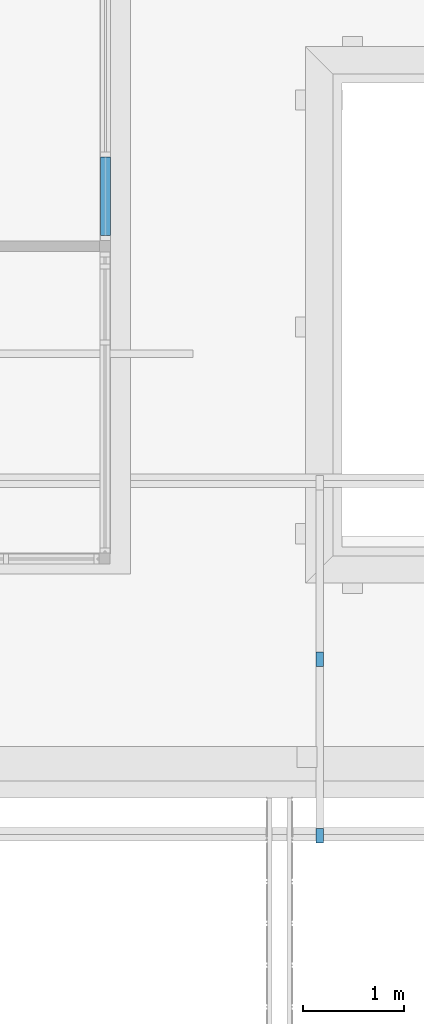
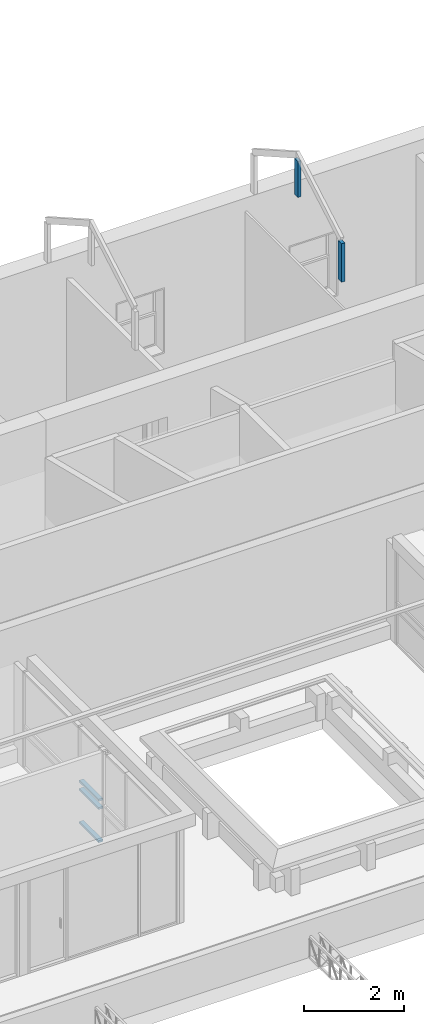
# One storey, part 63 of 153: 5 members, 2 elements without a shape of their own.
"""IFC4 building model written with IfcOpenShell, lengths in metres."""

import ifcopenshell
import ifcopenshell.guid

model = None  # the IFC model being written
_history = None  # IfcOwnerHistory: only IFC2X3 demands one
_inside = {}  # id of a spatial element -> (the spatial element, [elements in it])
_under = {}  # id of a project, library or spatial element -> (it, [spatial elements below it])
_declared = {}  # id of a project -> (the project, [libraries it declares])
_typed = {}  # id of a type object -> (the type object, [elements of that type])
_made_of = {}  # id of a material, layer set ... -> (it, [elements and type objects made of it])


def new_model(schema):
    """Start an empty IFC model of exactly this schema.

    Asked for "IFC4X3", IfcOpenShell would pick the latest addendum, in which some entities
    have other attributes; the version numbers below select the first issue.
    IFC2X3 requires an IfcOwnerHistory on every rooted entity: one is made here for all.
    """
    global model, _history
    if schema == "IFC4X3":
        model = ifcopenshell.file(schema_version=(4, 3, 0, 0))
    else:
        model = ifcopenshell.file(schema=schema)
    _inside.clear()
    _under.clear()
    _declared.clear()
    _typed.clear()
    _made_of.clear()
    _history = None
    if model.schema == "IFC2X3":
        org = make("IfcOrganization", Name="unknown")
        user = make(
            "IfcPersonAndOrganization",
            ThePerson=make("IfcPerson", FamilyName="unknown"),
            TheOrganization=org,
        )
        app = make(
            "IfcApplication",
            ApplicationDeveloper=org,
            Version="unknown",
            ApplicationFullName="unknown",
            ApplicationIdentifier="unknown",
        )
        _history = make(
            "IfcOwnerHistory",
            OwningUser=user,
            OwningApplication=app,
            ChangeAction="ADDED",
            CreationDate=0,
        )
    return model


def make(cls, **values):
    """One entity of the class cls with the attributes given. An attribute that is None is left unset."""
    return model.create_entity(
        cls, **{name: value for name, value in values.items() if value is not None}
    )


def entity(cls, *values):
    """Any entity or typed value of the class cls, its attributes in the order of the schema. None: left unset."""
    e = model.create_entity(cls)
    for i, value in enumerate(values):
        if value is not None:
            e[i] = value
    return e


def rooted(cls, **values):
    """An entity with a GlobalId (a new one), such as an element, a storey or a relation."""
    return make(cls, GlobalId=ifcopenshell.guid.new(), OwnerHistory=_history, **values)


def si_unit(unit_type, name, prefix=None):
    """IfcSIUnit, for example si_unit("LENGTHUNIT", "METRE", prefix="MILLI")."""
    return make("IfcSIUnit", UnitType=unit_type, Prefix=prefix, Name=name)


def converted_unit(unit_type, name, factor, base, dimensions=None, offset=None):
    """IfcConversionBasedUnit, such as the inch: factor (a typed value) times the base unit."""
    return make(
        "IfcConversionBasedUnit"
        if offset is None
        else "IfcConversionBasedUnitWithOffset",
        ConversionOffset=offset,
        Dimensions=None
        if dimensions is None
        else entity("IfcDimensionalExponents", *dimensions),
        UnitType=unit_type,
        Name=name,
        ConversionFactor=make(
            "IfcMeasureWithUnit", ValueComponent=factor, UnitComponent=base
        ),
    )


def derived_unit(unit_type, elements):
    """IfcDerivedUnit: a product of units, each with its exponent."""
    return make(
        "IfcDerivedUnit",
        Elements=[
            make("IfcDerivedUnitElement", Unit=unit, Exponent=power)
            for unit, power in elements
        ],
        UnitType=unit_type,
    )


def assignment(units):
    """IfcUnitAssignment: the units of a project."""
    return None if units is None else make("IfcUnitAssignment", Units=units)


def point(xyz):
    """IfcCartesianPoint."""
    return None if xyz is None else make("IfcCartesianPoint", Coordinates=xyz)


def direction(xyz):
    """IfcDirection."""
    return None if xyz is None else make("IfcDirection", DirectionRatios=xyz)


def frame(location, z_axis=None, x_axis=None):
    """IfcAxis2Placement3D, a coordinate frame: its origin and axes. An axis left out is left unset."""
    return make(
        "IfcAxis2Placement3D",
        Location=point(location),
        Axis=direction(z_axis),
        RefDirection=direction(x_axis),
    )


def origin():
    """The frame at (0, 0, 0) with its axes left unset."""
    return frame((0.0, 0.0, 0.0))


def place(relative_to, where):
    """IfcLocalPlacement: puts the frame where relative to a parent placement (None: the world)."""
    return make(
        "IfcLocalPlacement", PlacementRelTo=relative_to, RelativePlacement=where
    )


def context(
    kind, dimensions, precision=None, world=None, true_north=None, identifier=None
):
    """IfcGeometricRepresentationContext, for example the 3D "Model" context."""
    return make(
        "IfcGeometricRepresentationContext",
        ContextIdentifier=identifier,
        ContextType=kind,
        CoordinateSpaceDimension=dimensions,
        Precision=precision,
        WorldCoordinateSystem=world,
        TrueNorth=true_north,
    )


def subcontext(parent, identifier, kind, view, scale=None):
    """IfcGeometricRepresentationSubContext, for example "Body" below "Model"."""
    return make(
        "IfcGeometricRepresentationSubContext",
        ContextIdentifier=identifier,
        ContextType=kind,
        ParentContext=parent,
        TargetScale=scale,
        TargetView=view,
    )


def project(units=None, contexts=None):
    """IfcProject with its units and contexts."""
    return rooted(
        "IfcProject",
        Name="project",
        RepresentationContexts=contexts,
        UnitsInContext=assignment(units),
    )


def spatial(cls, under=None, at=None, **own):
    """A site, building, storey or space (cls), placed at a placement, below another one or the project."""
    s = rooted(cls, ObjectPlacement=at, **own)
    if under is not None:
        _under.setdefault(under.id(), (under, []))[1].append(s)
    return s


def point_list(points):
    """IfcCartesianPointList2D or 3D."""
    cls = (
        "IfcCartesianPointList2D" if len(points[0]) == 2 else "IfcCartesianPointList3D"
    )
    return make(cls, CoordList=points)


def indexed_curve(points, segments=None, self_intersect=None):
    """IfcIndexedPolyCurve: lines and arcs through numbered points (the first is 1)."""
    return make(
        "IfcIndexedPolyCurve",
        Points=point_list(points),
        Segments=segments,
        SelfIntersect=self_intersect,
    )


def outline(outer, holes=None, kind="AREA"):
    """IfcArbitraryClosedProfileDef: a profile drawn as a closed curve; with holes, ...WithVoids."""
    if holes is None:
        return make("IfcArbitraryClosedProfileDef", ProfileType=kind, OuterCurve=outer)
    return make(
        "IfcArbitraryProfileDefWithVoids",
        ProfileType=kind,
        OuterCurve=outer,
        InnerCurves=holes,
    )


def extrude(swept, where, along, depth):
    """IfcExtrudedAreaSolid: the profile swept, set in the frame where, extruded along a direction by depth."""
    return make(
        "IfcExtrudedAreaSolid",
        SweptArea=swept,
        Position=where,
        ExtrudedDirection=direction(along),
        Depth=depth,
    )


def shape(context_of_items, identifier, shape_type, items):
    """IfcShapeRepresentation: the items that make up one representation, for example the "Body"."""
    return make(
        "IfcShapeRepresentation",
        ContextOfItems=context_of_items,
        RepresentationIdentifier=identifier,
        RepresentationType=shape_type,
        Items=items,
    )


def source(mapping_origin, context_of_items, identifier, shape_type, items):
    """IfcRepresentationMap: a shape defined once, which mapped items show again and again."""
    return make(
        "IfcRepresentationMap",
        MappingOrigin=mapping_origin,
        MappedRepresentation=shape(context_of_items, identifier, shape_type, items),
    )


def transform(
    local_origin,
    x_axis=None,
    y_axis=None,
    z_axis=None,
    scale=None,
    scale2=None,
    scale3=None,
    uniform=True,
):
    """IfcCartesianTransformationOperator3D, or its non-uniform kind. x_axis, y_axis, z_axis: its Axis1, 2, 3."""
    if uniform:
        return make(
            "IfcCartesianTransformationOperator3D",
            Axis1=direction(x_axis),
            Axis2=direction(y_axis),
            LocalOrigin=point(local_origin),
            Scale=scale,
            Axis3=direction(z_axis),
        )
    return make(
        "IfcCartesianTransformationOperator3DnonUniform",
        Axis1=direction(x_axis),
        Axis2=direction(y_axis),
        LocalOrigin=point(local_origin),
        Scale=scale,
        Axis3=direction(z_axis),
        Scale2=scale2,
        Scale3=scale3,
    )


def mapped(mapping_source, mapping_target):
    """IfcMappedItem: shows the shape of a source again, moved by a transform."""
    return make(
        "IfcMappedItem", MappingSource=mapping_source, MappingTarget=mapping_target
    )


def material(Name=None, Category=None):
    """IfcMaterial."""
    return make("IfcMaterial", Name=Name, Category=Category)


def made_of(thing, what):
    """Note that an element or type object is made of a material, layer set ...; save() writes the relation."""
    if what is not None:
        _made_of.setdefault(what.id(), (what, []))[1].append(thing)
    return thing


def type_object(cls, material=None, **own):
    """A type object (cls), such as IfcWallType, which elements share."""
    return made_of(rooted(cls, **own), material)


def type_shapes(of_type, sources):
    """Give a type object the sources (RepresentationMaps) that its elements show as mapped items."""
    of_type.RepresentationMaps = sources


def element(
    cls,
    number,
    at=None,
    inside=None,
    cuts=None,
    type_object=None,
    material=None,
    context=None,
    identifier="Body",
    shape_type=None,
    held_by="IfcProductDefinitionShape",
    body=None,
    shapes=None,
    **own,
):
    """One element of the class cls, such as IfcWall. Its Tag is "e" and its number.

    at: its placement. inside: the storey or other place that contains it. cuts: it is an
    opening in that element (IfcRelVoidsElement). A single representation is given by context,
    identifier, shape_type and body (its items); several are given by shapes. held_by: the class
    of the entity that holds the representations. save() writes the other relations.
    """
    e = rooted(cls, Tag="e%d" % number, ObjectPlacement=at, **own)
    if body is not None:
        shapes = [shape(context, identifier, shape_type, body)]
    if shapes is not None:
        e.Representation = make(held_by, Representations=shapes)
    if inside is not None:
        _inside.setdefault(inside.id(), (inside, []))[1].append(e)
    if cuts is not None:
        rooted(
            "IfcRelVoidsElement", RelatingBuildingElement=cuts, RelatedOpeningElement=e
        )
    if type_object is not None:
        _typed.setdefault(type_object.id(), (type_object, []))[1].append(e)
    return made_of(e, material)


def aggregate(whole, parts):
    """IfcRelAggregates: a whole, such as a stair, and the parts it consists of."""
    return rooted("IfcRelAggregates", RelatingObject=whole, RelatedObjects=parts)


def save(model, path):
    """Write the relations noted so far, then the file.

    IfcRelAggregates (storeys below a building ...), IfcRelContainedInSpatialStructure (elements
    in a storey), IfcRelDefinesByType, IfcRelAssociatesMaterial and IfcRelDeclares: one each for
    every whole, place, type object, material and project.
    """
    for whole, parts in _under.values():
        aggregate(whole, parts)
    for where, things in _inside.values():
        rooted(
            "IfcRelContainedInSpatialStructure",
            RelatedElements=things,
            RelatingStructure=where,
        )
    for kind, things in _typed.values():
        rooted("IfcRelDefinesByType", RelatedObjects=things, RelatingType=kind)
    for what, things in _made_of.values():
        rooted("IfcRelAssociatesMaterial", RelatedObjects=things, RelatingMaterial=what)
    for by, libraries in _declared.values():
        rooted("IfcRelDeclares", RelatingContext=by, RelatedDefinitions=libraries)
    model.write(path)


model = new_model("IFC4")

# Units and contexts
model_context = context("Model", 3, precision=1e-05, world=origin(), true_north=direction((6.123031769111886e-17, 1.0)))
body_context = subcontext(model_context, "Body", "Model", "MODEL_VIEW")
ifc_project = project(units=[si_unit("LENGTHUNIT", "METRE"), si_unit("AREAUNIT", "SQUARE_METRE"), si_unit("VOLUMEUNIT", "CUBIC_METRE"), converted_unit("PLANEANGLEUNIT", "DEGREE", entity("IfcRatioMeasure", 0.017453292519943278), si_unit("PLANEANGLEUNIT", "RADIAN"), dimensions=[0, 0, 0, 0, 0, 0, 0]), si_unit("MASSUNIT", "GRAM", prefix="KILO"), derived_unit("MASSDENSITYUNIT", [(si_unit("MASSUNIT", "GRAM", prefix="KILO"), 1), (si_unit("LENGTHUNIT", "METRE"), -3)]), derived_unit("MOMENTOFINERTIAUNIT", [(si_unit("LENGTHUNIT", "METRE"), 4)]), si_unit("TIMEUNIT", "SECOND"), si_unit("FREQUENCYUNIT", "HERTZ"), si_unit("THERMODYNAMICTEMPERATUREUNIT", "DEGREE_CELSIUS"), derived_unit("THERMALTRANSMITTANCEUNIT", [(si_unit("MASSUNIT", "GRAM", prefix="KILO"), 1), (si_unit("THERMODYNAMICTEMPERATUREUNIT", "KELVIN"), -1), (si_unit("TIMEUNIT", "SECOND"), -3)]), derived_unit("VOLUMETRICFLOWRATEUNIT", [(si_unit("LENGTHUNIT", "METRE"), 3), (si_unit("TIMEUNIT", "SECOND"), -1)]), derived_unit("MASSFLOWRATEUNIT", [(si_unit("MASSUNIT", "GRAM", prefix="KILO"), 1), (si_unit("TIMEUNIT", "SECOND"), -1)]), derived_unit("ROTATIONALFREQUENCYUNIT", [(si_unit("TIMEUNIT", "SECOND"), -1)]), si_unit("ELECTRICCURRENTUNIT", "AMPERE"), si_unit("ELECTRICVOLTAGEUNIT", "VOLT"), si_unit("POWERUNIT", "WATT"), si_unit("FORCEUNIT", "NEWTON", prefix="KILO"), si_unit("ILLUMINANCEUNIT", "LUX"), si_unit("LUMINOUSFLUXUNIT", "LUMEN"), si_unit("LUMINOUSINTENSITYUNIT", "CANDELA"), derived_unit("USERDEFINED", [(si_unit("MASSUNIT", "GRAM", prefix="KILO"), -1), (si_unit("LENGTHUNIT", "METRE"), -2), (si_unit("TIMEUNIT", "SECOND"), 3), (si_unit("LUMINOUSFLUXUNIT", "LUMEN"), 1)]), derived_unit("SOUNDPOWERUNIT", [(si_unit("MASSUNIT", "GRAM", prefix="KILO"), 1), (si_unit("LENGTHUNIT", "METRE"), 2), (si_unit("TIMEUNIT", "SECOND"), -3)]), derived_unit("SOUNDPRESSUREUNIT", [(si_unit("MASSUNIT", "GRAM", prefix="KILO"), 1), (si_unit("LENGTHUNIT", "METRE"), -1), (si_unit("TIMEUNIT", "SECOND"), -2)]), derived_unit("LINEARVELOCITYUNIT", [(si_unit("LENGTHUNIT", "METRE"), 1), (si_unit("TIMEUNIT", "SECOND"), -1)]), si_unit("PRESSUREUNIT", "PASCAL"), derived_unit("USERDEFINED", [(si_unit("LENGTHUNIT", "METRE"), -2), (si_unit("MASSUNIT", "GRAM", prefix="KILO"), 1), (si_unit("TIMEUNIT", "SECOND"), -2)]), derived_unit("LINEARFORCEUNIT", [(si_unit("MASSUNIT", "GRAM", prefix="KILO"), 1), (si_unit("LENGTHUNIT", "METRE"), 1), (si_unit("TIMEUNIT", "SECOND"), -2), (si_unit("LENGTHUNIT", "METRE"), -1)]), derived_unit("PLANARFORCEUNIT", [(si_unit("MASSUNIT", "GRAM", prefix="KILO"), 1), (si_unit("LENGTHUNIT", "METRE"), 1), (si_unit("TIMEUNIT", "SECOND"), -2), (si_unit("LENGTHUNIT", "METRE"), -2)])], contexts=[model_context])

# Site, building, storey
site_placement = place(None, origin())
site = spatial("IfcSite", under=ifc_project, at=site_placement, Name="Superficie", CompositionType="ELEMENT")
building_placement = place(site_placement, origin())
building = spatial("IfcBuilding", under=site, at=building_placement, CompositionType="ELEMENT")
storey_placement = place(building_placement, frame((0.0, 0.0, 3.5999999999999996)))
storey = spatial("IfcBuildingStorey", under=building, at=storey_placement, Name="Nivel 1", CompositionType="ELEMENT", Elevation=3.5999999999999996)

# Curtain wall, members
curtain_wall_type = type_object("IfcCurtainWallType", Name="Muro cortina:Muro cortina - simple", PredefinedType="NOTDEFINED")
curtain_wall_placement = place(storey_placement, frame((0.0, 0.0, -3.5999999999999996)))
curtain_wall = element("IfcCurtainWall", 1, at=curtain_wall_placement, inside=storey, type_object=curtain_wall_type, Name="Muro cortina:Muro cortina - simple", ObjectType="Muro cortina:Muro cortina - simple", PredefinedType="NOTDEFINED")
ifc_material_1 = material(Name="<Unnamed>")
member_type_1 = type_object("IfcMemberType", Name="Montante rectangular:Montante rectangular - 5 x 10 cm", PredefinedType="MULLION", material=ifc_material_1)
shared_shape_1 = source(origin(), body_context, "Body", "SweptSolid", [
    extrude(outline(indexed_curve([(-0.05, -0.025), (0.05, -0.025), (0.05, 0.025), (-0.05, 0.025), (-0.05, -0.025)], self_intersect=False)), frame((0.0, 0.0, -0.778839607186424), z_axis=(0.0, 0.0, 1.0), x_axis=(0.0, -1.0, 0.0)), (0.0, 0.0, 1.0), 0.778839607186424),
])
type_shapes(member_type_1, [shared_shape_1])
member_1_placement = place(curtain_wall_placement, frame((-5.51320098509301, 3.020232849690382, 4.63), z_axis=(0.0, 1.0, 0.0), x_axis=(0.0, 0.0, 1.0)))
member_1 = element("IfcMember", 2, at=member_1_placement, type_object=member_type_1, material=ifc_material_1, Name="Montante rectangular:Montante rectangular - 5 x 10 cm", ObjectType="Montante rectangular:Montante rectangular - 5 x 10 cm", PredefinedType="MULLION", context=body_context, shape_type="MappedRepresentation", body=[
    mapped(shared_shape_1, transform((0.0, 0.0, 0.0), scale=1.0)),
])
member_2_placement = place(curtain_wall_placement, frame((-5.51320098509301, 3.020232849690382, 4.43), z_axis=(0.0, 1.0, 0.0), x_axis=(0.0, 0.0, 1.0)))
member_2 = element("IfcMember", 3, at=member_2_placement, type_object=member_type_1, material=ifc_material_1, Name="Montante rectangular:Montante rectangular - 5 x 10 cm", ObjectType="Montante rectangular:Montante rectangular - 5 x 10 cm", PredefinedType="MULLION", context=body_context, shape_type="MappedRepresentation", body=[
    mapped(shared_shape_1, transform((0.0, 0.0, 0.0), scale=1.0)),
])
member_3_placement = place(curtain_wall_placement, frame((-5.51320098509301, 3.020232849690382, 3.619999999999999), z_axis=(0.0, 1.0, 0.0), x_axis=(0.0, 0.0, 1.0)))
member_3 = element("IfcMember", 4, at=member_3_placement, type_object=member_type_1, material=ifc_material_1, Name="Montante rectangular:Montante rectangular - 5 x 10 cm", ObjectType="Montante rectangular:Montante rectangular - 5 x 10 cm", PredefinedType="MULLION", context=body_context, shape_type="MappedRepresentation", body=[
    mapped(shared_shape_1, transform((0.0, 0.0, 0.0), scale=1.0)),
])
aggregate(curtain_wall, [member_1, member_2, member_3])

# Assembly, members
assembly_placement = place(storey_placement, origin())
assembly = element("IfcElementAssembly", 5, at=assembly_placement, inside=storey, Name="Cercha superior:Cercha superior", ObjectType="Cercha superior:Cercha superior", AssemblyPlace="NOTDEFINED", PredefinedType="TRUSS")
ifc_material_2 = material(Name="Madera - Madera de construcción", Category="Madera")
member_type_2 = type_object("IfcMemberType", Name="Glulam-Pino del sur:76X140", PredefinedType="BRACE", material=ifc_material_2)
shared_shape_2 = source(origin(), body_context, "Body", "SweptSolid", [
    extrude(outline(indexed_curve([(-0.06999999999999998, -0.03800000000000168), (0.06999999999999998, -0.03800000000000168), (0.06999999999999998, 0.03800000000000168), (-0.06999999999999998, 0.03800000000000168), (-0.06999999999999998, -0.03800000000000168)], self_intersect=False)), frame((-0.5000000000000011, 0.0, 0.0), z_axis=(1.0, 0.0, 0.0), x_axis=(0.0, 0.0, -1.0)), (0.0, 0.0, 1.0), 0.939000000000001),
])
type_shapes(member_type_2, [shared_shape_2])
member_4_placement = place(building_placement, frame((-3.388073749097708, -3.7086724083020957, 20.687397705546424), z_axis=(0.0, -1.0, 0.0), x_axis=(0.0, 0.0, 1.0)))
member_4 = element("IfcMember", 6, at=member_4_placement, type_object=member_type_2, material=ifc_material_2, Name="Glulam-Pino del sur:76X140", ObjectType="Glulam-Pino del sur:76X140", PredefinedType="BRACE", context=body_context, shape_type="MappedRepresentation", body=[
    mapped(shared_shape_2, transform((0.0, 0.0, 0.0), scale=1.0)),
])
member_type_3 = type_object("IfcMemberType", Name="Glulam-Pino del sur:76X140", PredefinedType="BRACE", material=ifc_material_2)
shared_shape_3 = source(origin(), body_context, "Body", "SweptSolid", [
    extrude(outline(indexed_curve([(-0.06999999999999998, -0.03800000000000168), (0.06999999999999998, -0.03800000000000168), (0.06999999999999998, 0.03800000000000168), (-0.06999999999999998, 0.03800000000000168), (-0.06999999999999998, -0.03800000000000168)], self_intersect=False)), frame((-0.5000000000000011, 0.0, 0.0), z_axis=(1.0, 0.0, 0.0), x_axis=(0.0, 0.0, -1.0)), (0.0, 0.0, 1.0), 0.8790000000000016),
])
type_shapes(member_type_3, [shared_shape_3])
member_5_placement = place(building_placement, frame((-3.3880737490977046, -1.9586836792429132, 21.69367848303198), z_axis=(0.0, -1.0, 0.0), x_axis=(0.0, 0.0, 1.0)))
member_5 = element("IfcMember", 7, at=member_5_placement, type_object=member_type_3, material=ifc_material_2, Name="Glulam-Pino del sur:76X140", ObjectType="Glulam-Pino del sur:76X140", PredefinedType="BRACE", context=body_context, shape_type="MappedRepresentation", body=[
    mapped(shared_shape_3, transform((0.0, 0.0, 0.0), scale=1.0)),
])
aggregate(assembly, [member_4, member_5])

save(model, "model.ifc")
